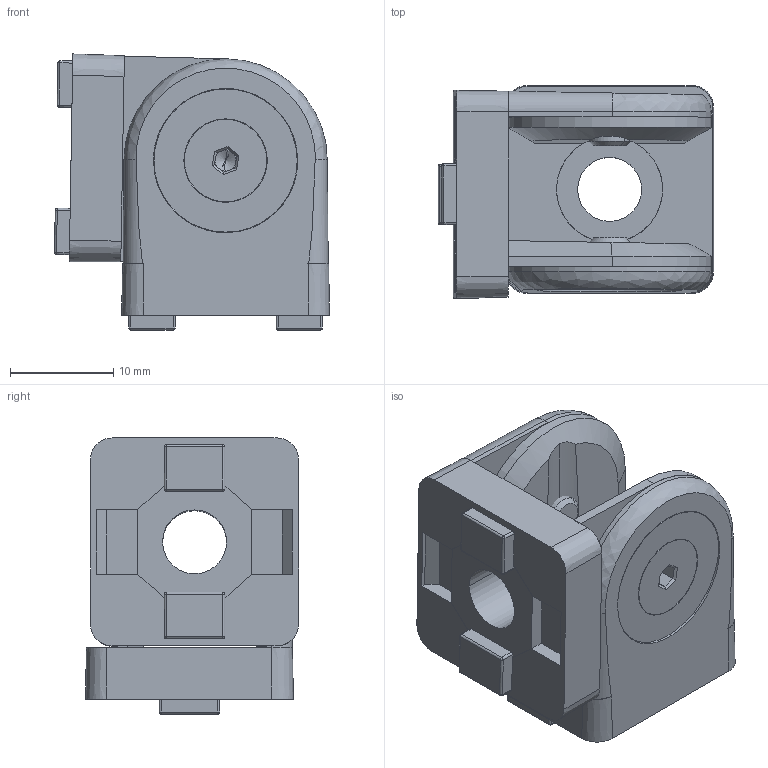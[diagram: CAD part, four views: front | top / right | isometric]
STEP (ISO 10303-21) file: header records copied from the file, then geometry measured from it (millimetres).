
FILE_DESCRIPTION (( 'STEP AP203' ), '1' );
FILE_NAME ('0105G2020.STEP', '2024-03-14T09:50:36', ( 'Windows-Benutzer' ), ( '' ), 'SwSTEP 2.0', 'SolidWorks 2023', '' );
FILE_SCHEMA (( 'CONFIG_CONTROL_DESIGN' ));
Length unit declared in the file: millimetre
Products named in the file (4): Gelenk5_20x20_(-55)_part3; 0105G2020; Gelenk5_20x20_(45)_part1; Gelenk5_20x20_(-55)_part2
Assembly tree (4 placements, depth 2):
  0105G2020
    Gelenk5_20x20_(45)_part1
    Gelenk5_20x20_(-55)_part2
    Gelenk5_20x20_(-55)_part3  x2
Bounding box: 26.7 x 20.67 x 26.8 mm (x, y, z)
Volume: 6854.7 mm3; surface area: 6662.1 mm2
Topology: 4 solids, 4 shells, 396 faces, 940 edges, 556 vertices
Faces by surface type: plane 152, cylinder 138, bspline 68, cone 38
Entity records: 13606 total; most frequent: CARTESIAN_POINT 5029, ORIENTED_EDGE 1736, DIRECTION 1650, EDGE_CURVE 868, AXIS2_PLACEMENT_3D 596, VERTEX_POINT 525, VECTOR 458, LINE 458
